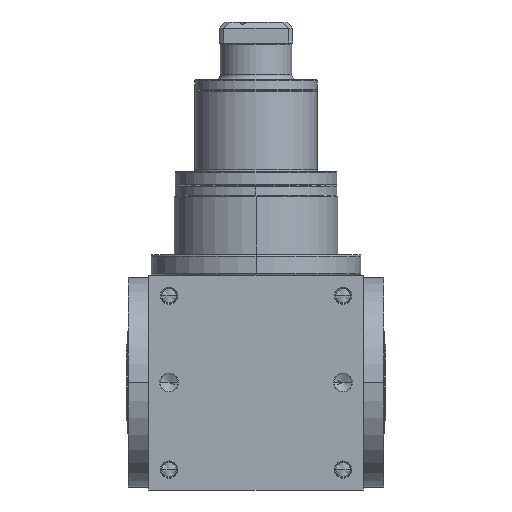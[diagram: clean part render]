
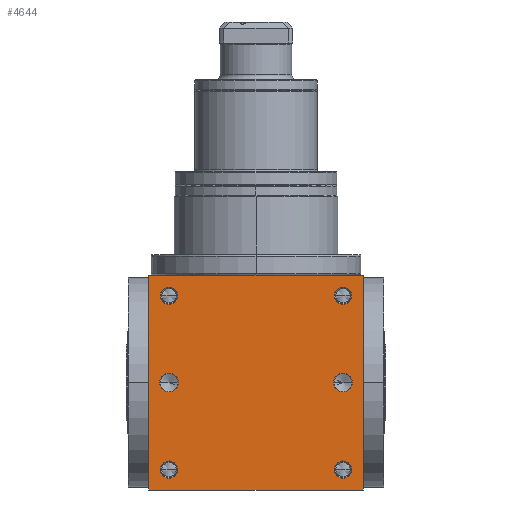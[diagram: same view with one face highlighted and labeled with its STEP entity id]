
A CAD part, front view. The second image highlights one B-rep face of the part: STEP entity #4644.
In plain terms, the highlighted planar face has unit normal (0, -1, 0).
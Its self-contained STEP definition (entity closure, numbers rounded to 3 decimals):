
#5=DIRECTION('',(1.,0.,0.));
#6=VECTOR('',#5,210.);
#7=CARTESIAN_POINT('',(-105.,-105.,-105.));
#8=LINE('',#7,#6);
#155=DIRECTION('',(0.,0.,1.));
#156=VECTOR('',#155,210.);
#157=CARTESIAN_POINT('',(105.,-105.,-105.));
#158=LINE('',#157,#156);
#209=DIRECTION('',(0.,0.,1.));
#210=VECTOR('',#209,210.);
#211=CARTESIAN_POINT('',(-105.,-105.,-105.));
#212=LINE('',#211,#210);
#213=CARTESIAN_POINT('',(85.,-105.,85.));
#214=DIRECTION('',(0.,1.,0.));
#215=DIRECTION('',(-1.,0.,0.));
#216=AXIS2_PLACEMENT_3D('',#213,#214,#215);
#218=CARTESIAN_POINT('',(85.,-105.,85.));
#219=DIRECTION('',(0.,1.,0.));
#220=DIRECTION('',(1.,0.,0.));
#221=AXIS2_PLACEMENT_3D('',#218,#219,#220);
#223=CARTESIAN_POINT('',(-85.,-105.,85.));
#224=DIRECTION('',(0.,1.,0.));
#225=DIRECTION('',(-1.,0.,0.));
#226=AXIS2_PLACEMENT_3D('',#223,#224,#225);
#228=CARTESIAN_POINT('',(-85.,-105.,85.));
#229=DIRECTION('',(0.,1.,0.));
#230=DIRECTION('',(1.,0.,0.));
#231=AXIS2_PLACEMENT_3D('',#228,#229,#230);
#233=CARTESIAN_POINT('',(85.,-105.,-85.));
#234=DIRECTION('',(0.,1.,0.));
#235=DIRECTION('',(-1.,0.,0.));
#236=AXIS2_PLACEMENT_3D('',#233,#234,#235);
#238=CARTESIAN_POINT('',(85.,-105.,-85.));
#239=DIRECTION('',(0.,1.,0.));
#240=DIRECTION('',(1.,0.,0.));
#241=AXIS2_PLACEMENT_3D('',#238,#239,#240);
#243=CARTESIAN_POINT('',(-85.,-105.,-85.));
#244=DIRECTION('',(0.,1.,0.));
#245=DIRECTION('',(-1.,0.,0.));
#246=AXIS2_PLACEMENT_3D('',#243,#244,#245);
#248=CARTESIAN_POINT('',(-85.,-105.,-85.));
#249=DIRECTION('',(0.,1.,0.));
#250=DIRECTION('',(1.,0.,0.));
#251=AXIS2_PLACEMENT_3D('',#248,#249,#250);
#253=CARTESIAN_POINT('',(-85.,-105.,0.));
#254=DIRECTION('',(0.,1.,0.));
#255=DIRECTION('',(1.,0.,0.));
#256=AXIS2_PLACEMENT_3D('',#253,#254,#255);
#258=CARTESIAN_POINT('',(-85.,-105.,0.));
#259=DIRECTION('',(0.,1.,0.));
#260=DIRECTION('',(-1.,0.,0.));
#261=AXIS2_PLACEMENT_3D('',#258,#259,#260);
#263=CARTESIAN_POINT('',(85.,-105.,0.));
#264=DIRECTION('',(0.,1.,0.));
#265=DIRECTION('',(1.,0.,0.));
#266=AXIS2_PLACEMENT_3D('',#263,#264,#265);
#268=CARTESIAN_POINT('',(85.,-105.,0.));
#269=DIRECTION('',(0.,1.,0.));
#270=DIRECTION('',(-1.,0.,0.));
#271=AXIS2_PLACEMENT_3D('',#268,#269,#270);
#285=DIRECTION('',(1.,0.,0.));
#286=VECTOR('',#285,210.);
#287=CARTESIAN_POINT('',(-105.,-105.,105.));
#288=LINE('',#287,#286);
#3738=CARTESIAN_POINT('',(-105.,-105.,-105.));
#3740=VERTEX_POINT('',#3738);
#3741=CARTESIAN_POINT('',(105.,-105.,-105.));
#3742=VERTEX_POINT('',#3741);
#3746=CARTESIAN_POINT('',(-105.,-105.,105.));
#3748=VERTEX_POINT('',#3746);
#3749=CARTESIAN_POINT('',(105.,-105.,105.));
#3750=VERTEX_POINT('',#3749);
#3905=CARTESIAN_POINT('',(76.6,-105.,85.));
#3906=CARTESIAN_POINT('',(93.4,-105.,85.));
#3907=VERTEX_POINT('',#3905);
#3908=VERTEX_POINT('',#3906);
#3913=CARTESIAN_POINT('',(-93.4,-105.,85.));
#3914=CARTESIAN_POINT('',(-76.6,-105.,85.));
#3915=VERTEX_POINT('',#3913);
#3916=VERTEX_POINT('',#3914);
#3921=CARTESIAN_POINT('',(76.6,-105.,-85.));
#3922=CARTESIAN_POINT('',(93.4,-105.,-85.));
#3923=VERTEX_POINT('',#3921);
#3924=VERTEX_POINT('',#3922);
#3929=CARTESIAN_POINT('',(-93.4,-105.,-85.));
#3930=CARTESIAN_POINT('',(-76.6,-105.,-85.));
#3931=VERTEX_POINT('',#3929);
#3932=VERTEX_POINT('',#3930);
#4253=CARTESIAN_POINT('',(-75.95,-105.,0.));
#4254=CARTESIAN_POINT('',(-94.05,-105.,
0.));
#4255=VERTEX_POINT('',#4253);
#4256=VERTEX_POINT('',#4254);
#4261=CARTESIAN_POINT('',(94.05,-105.,0.));
#4262=CARTESIAN_POINT('',(75.95,-105.,0.));
#4263=VERTEX_POINT('',#4261);
#4264=VERTEX_POINT('',#4262);
#4596=CARTESIAN_POINT('',(-105.,-105.,-105.));
#4597=DIRECTION('',(0.,-1.,0.));
#4598=DIRECTION('',(1.,0.,0.));
#4599=AXIS2_PLACEMENT_3D('',#4596,#4597,#4598);
#4600=PLANE('',#4599);
#4601=ORIENTED_EDGE('',*,*,#4436,.F.);
#4602=ORIENTED_EDGE('',*,*,#4479,.T.);
#4604=ORIENTED_EDGE('',*,*,#4603,.T.);
#4605=ORIENTED_EDGE('',*,*,#4558,.F.);
#4606=EDGE_LOOP('',(#4601,#4602,#4604,#4605));
#4607=FACE_OUTER_BOUND('',#4606,.F.);
#4609=ORIENTED_EDGE('',*,*,#4608,.F.);
#4611=ORIENTED_EDGE('',*,*,#4610,.F.);
#4612=EDGE_LOOP('',(#4609,#4611));
#4613=FACE_BOUND('',#4612,.F.);
#4615=ORIENTED_EDGE('',*,*,#4614,.F.);
#4617=ORIENTED_EDGE('',*,*,#4616,.F.);
#4618=EDGE_LOOP('',(#4615,#4617));
#4619=FACE_BOUND('',#4618,.F.);
#4621=ORIENTED_EDGE('',*,*,#4620,.F.);
#4623=ORIENTED_EDGE('',*,*,#4622,.F.);
#4624=EDGE_LOOP('',(#4621,#4623));
#4625=FACE_BOUND('',#4624,.F.);
#4627=ORIENTED_EDGE('',*,*,#4626,.F.);
#4629=ORIENTED_EDGE('',*,*,#4628,.F.);
#4630=EDGE_LOOP('',(#4627,#4629));
#4631=FACE_BOUND('',#4630,.F.);
#4633=ORIENTED_EDGE('',*,*,#4632,.F.);
#4635=ORIENTED_EDGE('',*,*,#4634,.F.);
#4636=EDGE_LOOP('',(#4633,#4635));
#4637=FACE_BOUND('',#4636,.F.);
#4639=ORIENTED_EDGE('',*,*,#4638,.F.);
#4641=ORIENTED_EDGE('',*,*,#4640,.F.);
#4642=EDGE_LOOP('',(#4639,#4641));
#4643=FACE_BOUND('',#4642,.F.);
#4644=ADVANCED_FACE('',(#4607,#4613,#4619,#4625,#4631,#4637,#4643),#4600,.T.);
#217=CIRCLE('',#216,8.4);
#222=CIRCLE('',#221,8.4);
#227=CIRCLE('',#226,8.4);
#232=CIRCLE('',#231,8.4);
#237=CIRCLE('',#236,8.4);
#242=CIRCLE('',#241,8.4);
#247=CIRCLE('',#246,8.4);
#252=CIRCLE('',#251,8.4);
#257=CIRCLE('',#256,9.05);
#262=CIRCLE('',#261,9.05);
#267=CIRCLE('',#266,9.05);
#272=CIRCLE('',#271,9.05);
#4436=EDGE_CURVE('',#3740,#3742,#8,.T.);
#4479=EDGE_CURVE('',#3740,#3748,#212,.T.);
#4558=EDGE_CURVE('',#3742,#3750,#158,.T.);
#4603=EDGE_CURVE('',#3748,#3750,#288,.T.);
#4608=EDGE_CURVE('',#3907,#3908,#217,.T.);
#4610=EDGE_CURVE('',#3908,#3907,#222,.T.);
#4614=EDGE_CURVE('',#3915,#3916,#227,.T.);
#4616=EDGE_CURVE('',#3916,#3915,#232,.T.);
#4620=EDGE_CURVE('',#3923,#3924,#237,.T.);
#4622=EDGE_CURVE('',#3924,#3923,#242,.T.);
#4626=EDGE_CURVE('',#3931,#3932,#247,.T.);
#4628=EDGE_CURVE('',#3932,#3931,#252,.T.);
#4632=EDGE_CURVE('',#4255,#4256,#257,.T.);
#4634=EDGE_CURVE('',#4256,#4255,#262,.T.);
#4638=EDGE_CURVE('',#4263,#4264,#267,.T.);
#4640=EDGE_CURVE('',#4264,#4263,#272,.T.);
